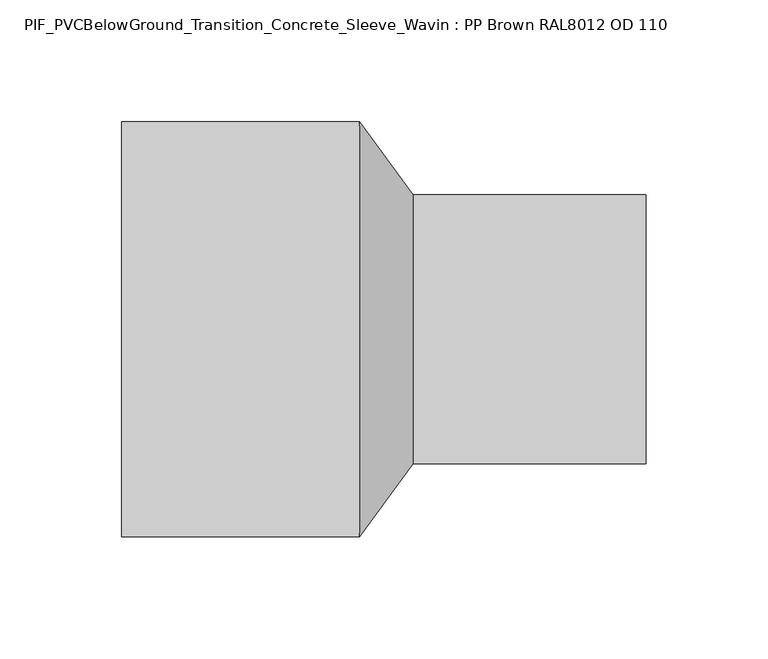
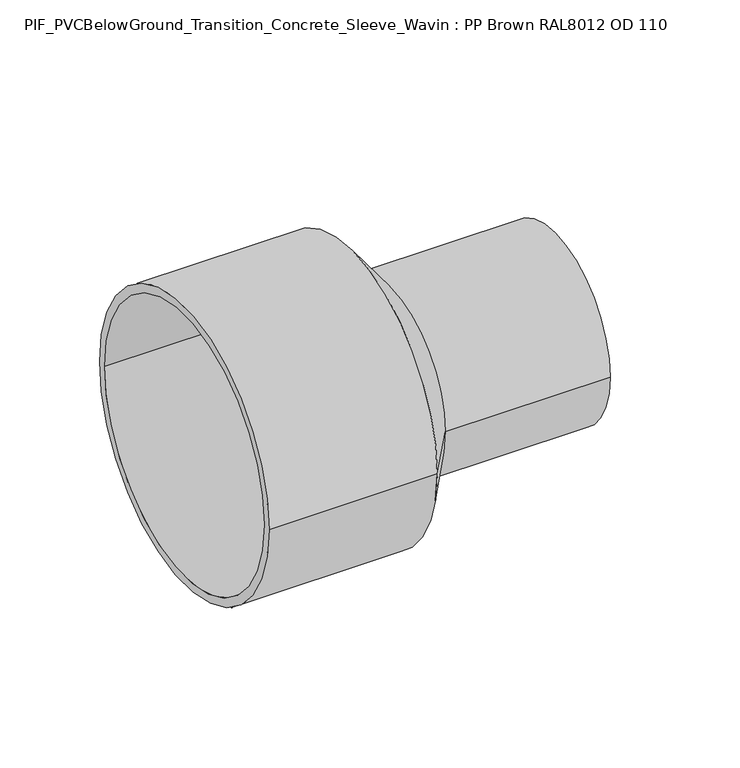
"""IFC4 building model written with IfcOpenShell, lengths in millimetres: pipe fitting geometry, PIF_PVCBelowGround_Transition_Concrete_Sleeve_Wavin : PP Brown RAL8012 OD 110."""

from ifc_helpers import new_model, si_unit, frame, origin, place, context, project, spatial, polyline, circle_curve, source, transform, mapped, element, save
from ifc_brep_helpers import plane_surface, cylinder_surface, revolved_surface, advanced_brep


def pif_pvcbelowground_transition_concrete_sleeve_wavin_pp_brown_847c4554(model_context):
    return source(origin(), model_context, "Body", "AdvancedBrep", [
        advanced_brep(
        [(-97.5, -85.05, 0.0), (-97.5, 85.05, 0.0), (-97.5, -80.0, 0.0), (-97.5, 80.0, 0.0), (0.0, 85.05, 0.0), (0.0, -85.05, 0.0), (0.0, 80.0, 0.0), (0.0, -80.0, 0.0), (22.0, 50.05, 0.0), (22.0, -50.05, 0.0), (22.0, 55.1, 0.0), (22.0, -55.1, 0.0), (117.5, -55.1, 0.0), (117.5, 55.1, 0.0), (117.5, -50.05, 0.0), (117.5, 50.05, 0.0)],
        [
            (0, 1, circle_curve(frame((-97.5, 0.0, 0.0), z_axis=(-1.0, 0.0, 0.0), x_axis=(0.0, 1.0, 0.0)), 85.05)),
            (1, 0, circle_curve(frame((-97.5, 0.0, 0.0), z_axis=(-1.0, 0.0, 0.0), x_axis=(0.0, 1.0, 0.0)), 85.05)),
            (2, 3, circle_curve(frame((-97.5, 0.0, 0.0), z_axis=(1.0, 0.0, 0.0), x_axis=(0.0, 1.0, 0.0)), 80.0)),
            (3, 2, circle_curve(frame((-97.5, 0.0, 0.0), z_axis=(1.0, 0.0, 0.0), x_axis=(0.0, 1.0, 0.0)), 80.0)),
            (1, 4),
            (4, 5, circle_curve(frame((0.0, 0.0, 0.0), z_axis=(-1.0, 0.0, 0.0), x_axis=(0.0, 1.0, 0.0)), 85.05)),
            (5, 0),
            (5, 4, circle_curve(frame((0.0, 0.0, 0.0), z_axis=(-1.0, 0.0, 0.0), x_axis=(0.0, 1.0, 0.0)), 85.05)),
            (3, 6),
            (6, 7, circle_curve(frame((0.0, 0.0, 0.0), z_axis=(1.0, 0.0, 0.0), x_axis=(0.0, 1.0, 0.0)), 80.0)),
            (7, 2),
            (7, 6, circle_curve(frame((0.0, 0.0, 0.0), z_axis=(1.0, 0.0, 0.0), x_axis=(0.0, 1.0, 0.0)), 80.0)),
            (8, 9, circle_curve(frame((22.0, 0.0, 0.0), z_axis=(1.0, 0.0, 0.0), x_axis=(0.0, 1.0, 0.0)), 50.05)),
            (9, 8, circle_curve(frame((22.0, 0.0, 0.0), z_axis=(1.0, 0.0, 0.0), x_axis=(0.0, 1.0, 0.0)), 50.05)),
            (4, 10),
            (10, 11, circle_curve(frame((22.0, 0.0, 0.0), z_axis=(-1.0, 0.0, 0.0), x_axis=(0.0, -1.0, 0.0)), 55.1)),
            (11, 5),
            (11, 10, circle_curve(frame((22.0, 0.0, 0.0), z_axis=(-1.0, 0.0, 0.0), x_axis=(0.0, 1.0, 0.0)), 55.1)),
            (12, 13, circle_curve(frame((117.5, 0.0, 0.0), z_axis=(1.0, 0.0, 0.0), x_axis=(0.0, 1.0, 0.0)), 55.1)),
            (13, 12, circle_curve(frame((117.5, 0.0, 0.0), z_axis=(1.0, 0.0, 0.0), x_axis=(0.0, 1.0, 0.0)), 55.1)),
            (14, 15, circle_curve(frame((117.5, 0.0, 0.0), z_axis=(-1.0, 0.0, 0.0), x_axis=(0.0, 1.0, 0.0)), 50.05)),
            (15, 14, circle_curve(frame((117.5, 0.0, 0.0), z_axis=(-1.0, 0.0, 0.0), x_axis=(0.0, 1.0, 0.0)), 50.05)),
            (14, 9),
            (8, 15),
            (12, 11),
            (10, 13),
        ],
        [
            plane_surface(frame((-97.5, 85.05, 0.0), z_axis=(-1.0, 0.0, 0.0), x_axis=(0.0, 0.0, -1.0))),
            cylinder_surface(frame((-97.5, 0.0, 0.0), z_axis=(1.0, 0.0, 0.0), x_axis=(0.0, 1.0, 0.0)), 85.05),
            revolved_surface(polyline([(-97.5, 80.0, 0.0), (0.0, 80.0, 0.0)]), (-97.5, 0.0, 0.0), (-1.0, 0.0, 0.0)),
            plane_surface(frame((22.0, 0.0, 0.0), z_axis=(1.0, 0.0, 0.0), x_axis=(0.0, 0.0, -1.0))),
            plane_surface(frame((0.0, 0.0, 0.0), z_axis=(-1.0, 0.0, 0.0), x_axis=(0.0, 0.0, -1.0))),
            revolved_surface(polyline([(22.0, 55.09999998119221, 0.0), (0.0, 85.05, 0.0)]), (62.4741235, 0.0, 0.0), (-1.0, 0.0, 0.0)),
            plane_surface(frame((117.5, 50.05, 0.0), z_axis=(1.0, 0.0, 0.0), x_axis=(0.0, 0.0, -1.0))),
            revolved_surface(polyline([(22.0, 50.05, 0.0), (117.5, 50.05, 0.0)]), (22.0, 0.0, 0.0), (-1.0, 0.0, 0.0)),
            cylinder_surface(frame((117.5, 0.0, 0.0), z_axis=(1.0, 0.0, 0.0), x_axis=(0.0, 1.0, 0.0)), 55.1),
        ],
        [
            (0, [[1, 2], [3, 4]]),
            (1, [[-2, 5, 6, 7]]),
            (1, [[-1, -7, 8, -5]]),
            (2, [[-4, 9, 10, 11]]),
            (2, [[-3, -11, 12, -9]]),
            (3, [[13, 14]]),
            (4, [[-10, -12]]),
            (5, [[15, 16, 17, -6]]),
            (5, [[-15, -8, -17, 18]]),
            (6, [[19, 20], [21, 22]]),
            (7, [[-21, 23, -13, 24]]),
            (7, [[-22, -24, -14, -23]]),
            (8, [[-19, 25, -16, 26]]),
            (8, [[-20, -26, -18, -25]]),
        ],
    ),
    ])


if __name__ == "__main__":
    model = new_model("IFC4")
    model_context = context("Model", 3, world=origin())
    ifc_project = project(units=[si_unit("LENGTHUNIT", "METRE", prefix="MILLI")], contexts=[model_context])
    site = spatial("IfcSite", under=ifc_project)
    building = spatial("IfcBuilding", under=site)
    placement = place(None, origin())
    pif_pvcbelowground_transition_concrete_sleeve_wavin_pp_brown_shape = pif_pvcbelowground_transition_concrete_sleeve_wavin_pp_brown_847c4554(model_context)
    element("IfcPipeFitting", 1, ObjectType="PIF_PVCBelowGround_Transition_Concrete_Sleeve_Wavin : PP Brown RAL8012 OD 110", at=placement, inside=building, context=model_context, shape_type="MappedRepresentation", body=[
        mapped(pif_pvcbelowground_transition_concrete_sleeve_wavin_pp_brown_shape, transform((0.0, 0.0, 0.0), x_axis=(1.0, 0.0, 0.0), y_axis=(0.0, 1.0, 0.0), z_axis=(0.0, 0.0, 1.0))),
    ])
    save(model, "model.ifc")
